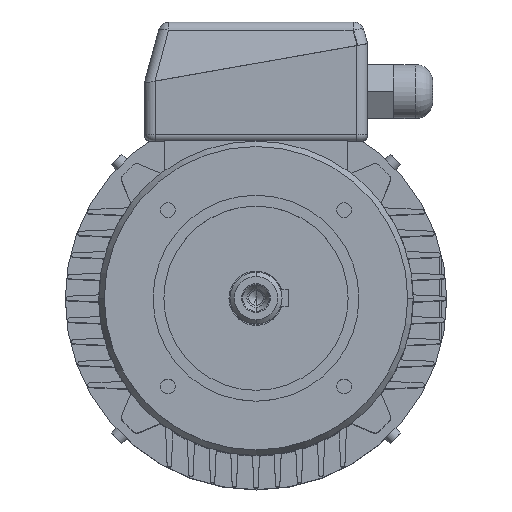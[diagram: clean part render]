
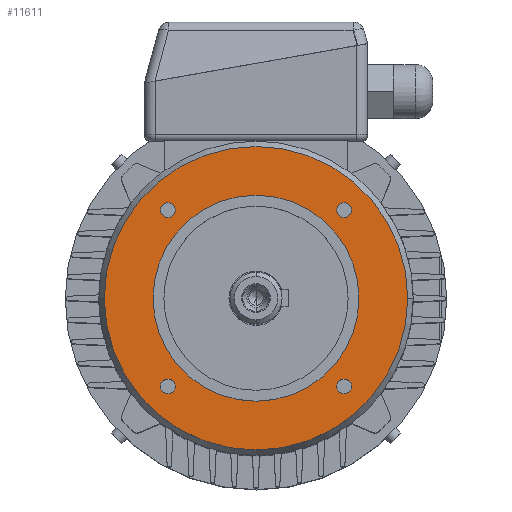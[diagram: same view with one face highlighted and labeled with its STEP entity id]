
A CAD part, top view. The second image highlights one B-rep face of the part: STEP entity #11611.
In plain terms, the highlighted planar face has unit normal (0, 0, 1).
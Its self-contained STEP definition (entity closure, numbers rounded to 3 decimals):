
#16561 = EDGE_CURVE ( 'NONE', #7037, #2355, #9770, .T. ) ;
#196 = ORIENTED_EDGE ( 'NONE', *, *, #16561, .F. ) ;
#304 = CIRCLE ( 'NONE', #305, 3.4 ) ;
#305 = AXIS2_PLACEMENT_3D ( 'NONE', #306, #307, #308 ) ;
#306 = CARTESIAN_POINT ( 'NONE',  ( 40.659, -40.659, 40. ) ) ;
#307 = DIRECTION ( 'NONE',  ( 0., 0., 1. ) ) ;
#308 = DIRECTION ( 'NONE',  ( 1., 0., 0. ) ) ;
#16860 = VERTEX_POINT ( 'NONE', #9929 ) ;
#558 = EDGE_CURVE ( 'NONE', #16860, #14140, #12507, .T. ) ;
#17073 = CIRCLE ( 'NONE', #17074, 3.4 ) ;
#17074 = AXIS2_PLACEMENT_3D ( 'NONE', #17078, #17079, #17080 ) ;
#17078 = CARTESIAN_POINT ( 'NONE',  ( -40.659, -40.659, 40. ) ) ;
#17079 = DIRECTION ( 'NONE',  ( 0., 0., 1. ) ) ;
#17080 = DIRECTION ( 'NONE',  ( 1., 0., 0. ) ) ;
#709 = ORIENTED_EDGE ( 'NONE', *, *, #558, .T. ) ;
#17231 = CARTESIAN_POINT ( 'NONE',  ( -44.059, 40.659, 40. ) ) ;
#921 = ORIENTED_EDGE ( 'NONE', *, *, #6793, .F. ) ;
#2165 = ORIENTED_EDGE ( 'NONE', *, *, #16266, .F. ) ;
#2355 = VERTEX_POINT ( 'NONE', #13650 ) ;
#2863 = CIRCLE ( 'NONE', #2864, 70. ) ;
#2864 = AXIS2_PLACEMENT_3D ( 'NONE', #2865, #2866, #2867 ) ;
#2865 = CARTESIAN_POINT ( 'NONE',  ( 0., 0., 40. ) ) ;
#2866 = DIRECTION ( 'NONE',  ( 0., 0., -1. ) ) ;
#2867 = DIRECTION ( 'NONE',  ( 0., 1., 0. ) ) ;
#2876 = CARTESIAN_POINT ( 'NONE',  ( 44.059, -40.659, 40. ) ) ;
#2985 = VERTEX_POINT ( 'NONE', #14122 ) ;
#3203 = EDGE_CURVE ( 'NONE', #3579, #2985, #14236, .T. ) ;
#3426 = ORIENTED_EDGE ( 'NONE', *, *, #3641, .F. ) ;
#3579 = VERTEX_POINT ( 'NONE', #14528 ) ;
#3641 = EDGE_CURVE ( 'NONE', #10983, #14914, #14547, .T. ) ;
#4711 = VERTEX_POINT ( 'NONE', #15298 ) ;
#4712 = EDGE_LOOP ( 'NONE', ( #921, #6431 ) ) ;
#4963 = EDGE_CURVE ( 'NONE', #4711, #12074, #15544, .T. ) ;
#5011 = FACE_BOUND ( 'NONE', #11539, .T. ) ;
#5012 = FACE_BOUND ( 'NONE', #4712, .T. ) ;
#5013 = FACE_BOUND ( 'NONE', #10735, .T. ) ;
#5014 = FACE_BOUND ( 'NONE', #11829, .T. ) ;
#5015 = FACE_BOUND ( 'NONE', #5660, .T. ) ;
#5016 = FACE_OUTER_BOUND ( 'NONE', #14731, .T. ) ;
#5017 = PLANE ( 'NONE',  #5018 ) ;
#5018 = AXIS2_PLACEMENT_3D ( 'NONE', #5019, #5020, #5021 ) ;
#5019 = CARTESIAN_POINT ( 'NONE',  ( 0., 70., 40. ) ) ;
#5020 = DIRECTION ( 'NONE',  ( 0., 0., 1. ) ) ;
#5021 = DIRECTION ( 'NONE',  ( 0., -1., 0. ) ) ;
#5660 = EDGE_LOOP ( 'NONE', ( #10973, #709 ) ) ;
#6224 = CARTESIAN_POINT ( 'NONE',  ( 0., -70., 40. ) ) ;
#6431 = ORIENTED_EDGE ( 'NONE', *, *, #3203, .F. ) ;
#6793 = EDGE_CURVE ( 'NONE', #2985, #3579, #17073, .T. ) ;
#7037 = VERTEX_POINT ( 'NONE', #17231 ) ;
#7939 = EDGE_CURVE ( 'NONE', #14914, #10983, #304, .T. ) ;
#7972 = CARTESIAN_POINT ( 'NONE',  ( 0., 47.5, 40. ) ) ;
#7975 = ORIENTED_EDGE ( 'NONE', *, *, #10976, .F. ) ;
#8079 = CIRCLE ( 'NONE', #8080, 47.5 ) ;
#8080 = AXIS2_PLACEMENT_3D ( 'NONE', #8081, #8082, #8083 ) ;
#8081 = CARTESIAN_POINT ( 'NONE',  ( 0., 0., 40. ) ) ;
#8082 = DIRECTION ( 'NONE',  ( 0., 0., -1. ) ) ;
#8083 = DIRECTION ( 'NONE',  ( 0., 1., 0. ) ) ;
#8327 = ORIENTED_EDGE ( 'NONE', *, *, #15028, .F. ) ;
#8580 = CARTESIAN_POINT ( 'NONE',  ( 37.259, -40.659, 40. ) ) ;
#8676 = CIRCLE ( 'NONE', #8677, 3.4 ) ;
#8677 = AXIS2_PLACEMENT_3D ( 'NONE', #8687, #8688, #8689 ) ;
#8687 = CARTESIAN_POINT ( 'NONE',  ( 40.659, 40.659, 40. ) ) ;
#8688 = DIRECTION ( 'NONE',  ( 0., 0., 1. ) ) ;
#8689 = DIRECTION ( 'NONE',  ( 1., 0., 0. ) ) ;
#8790 = CIRCLE ( 'NONE', #8791, 3.4 ) ;
#8791 = AXIS2_PLACEMENT_3D ( 'NONE', #8796, #8797, #8798 ) ;
#8796 = CARTESIAN_POINT ( 'NONE',  ( 40.659, 40.659, 40. ) ) ;
#8797 = DIRECTION ( 'NONE',  ( 0., 0., 1. ) ) ;
#8798 = DIRECTION ( 'NONE',  ( 1., 0., 0. ) ) ;
#8885 = CARTESIAN_POINT ( 'NONE',  ( 44.059, 40.659, 40. ) ) ;
#9132 = CARTESIAN_POINT ( 'NONE',  ( 37.259, 40.659, 40. ) ) ;
#9640 = CIRCLE ( 'NONE', #9641, 3.4 ) ;
#9641 = AXIS2_PLACEMENT_3D ( 'NONE', #9642, #9643, #9644 ) ;
#9642 = CARTESIAN_POINT ( 'NONE',  ( -40.659, 40.659, 40. ) ) ;
#9643 = DIRECTION ( 'NONE',  ( 0., 0., 1. ) ) ;
#9644 = DIRECTION ( 'NONE',  ( 1., 0., 0. ) ) ;
#9770 = CIRCLE ( 'NONE', #9771, 3.4 ) ;
#9771 = AXIS2_PLACEMENT_3D ( 'NONE', #9772, #9773, #9774 ) ;
#9772 = CARTESIAN_POINT ( 'NONE',  ( -40.659, 40.659, 40. ) ) ;
#9773 = DIRECTION ( 'NONE',  ( 0., 0., 1. ) ) ;
#9774 = DIRECTION ( 'NONE',  ( 1., 0., 0. ) ) ;
#9929 = CARTESIAN_POINT ( 'NONE',  ( 0., -47.5, 40. ) ) ;
#10735 = EDGE_LOOP ( 'NONE', ( #3426, #11847 ) ) ;
#10973 = ORIENTED_EDGE ( 'NONE', *, *, #14348, .T. ) ;
#10976 = EDGE_CURVE ( 'NONE', #12074, #4711, #2863, .T. ) ;
#10983 = VERTEX_POINT ( 'NONE', #2876 ) ;
#11539 = EDGE_LOOP ( 'NONE', ( #2165, #196 ) ) ;
#11611 = ADVANCED_FACE ( 'NONE', ( #5011, #5012, #5013, #5014, #5015, #5016 ), #5017, .T. ) ;
#11639 = ORIENTED_EDGE ( 'NONE', *, *, #15202, .F. ) ;
#11829 = EDGE_LOOP ( 'NONE', ( #11639, #8327 ) ) ;
#11847 = ORIENTED_EDGE ( 'NONE', *, *, #7939, .F. ) ;
#12074 = VERTEX_POINT ( 'NONE', #6224 ) ;
#12507 = CIRCLE ( 'NONE', #12508, 47.5 ) ;
#12508 = AXIS2_PLACEMENT_3D ( 'NONE', #12509, #12513, #12514 ) ;
#12509 = CARTESIAN_POINT ( 'NONE',  ( 0., 0., 40. ) ) ;
#12513 = DIRECTION ( 'NONE',  ( 0., 0., -1. ) ) ;
#12514 = DIRECTION ( 'NONE',  ( 0., 1., 0. ) ) ;
#13650 = CARTESIAN_POINT ( 'NONE',  ( -37.259, 40.659, 40. ) ) ;
#14122 = CARTESIAN_POINT ( 'NONE',  ( -37.259, -40.659, 40. ) ) ;
#14140 = VERTEX_POINT ( 'NONE', #7972 ) ;
#14236 = CIRCLE ( 'NONE', #14237, 3.4 ) ;
#14237 = AXIS2_PLACEMENT_3D ( 'NONE', #14238, #14239, #14242 ) ;
#14238 = CARTESIAN_POINT ( 'NONE',  ( -40.659, -40.659, 40. ) ) ;
#14239 = DIRECTION ( 'NONE',  ( 0., 0., 1. ) ) ;
#14242 = DIRECTION ( 'NONE',  ( 1., 0., 0. ) ) ;
#14348 = EDGE_CURVE ( 'NONE', #14140, #16860, #8079, .T. ) ;
#14528 = CARTESIAN_POINT ( 'NONE',  ( -44.059, -40.659, 40. ) ) ;
#14547 = CIRCLE ( 'NONE', #14548, 3.4 ) ;
#14548 = AXIS2_PLACEMENT_3D ( 'NONE', #14549, #14550, #14551 ) ;
#14549 = CARTESIAN_POINT ( 'NONE',  ( 40.659, -40.659, 40. ) ) ;
#14550 = DIRECTION ( 'NONE',  ( 0., 0., 1. ) ) ;
#14551 = DIRECTION ( 'NONE',  ( 1., 0., 0. ) ) ;
#14648 = ORIENTED_EDGE ( 'NONE', *, *, #4963, .F. ) ;
#14731 = EDGE_LOOP ( 'NONE', ( #14648, #7975 ) ) ;
#14914 = VERTEX_POINT ( 'NONE', #8580 ) ;
#15028 = EDGE_CURVE ( 'NONE', #15707, #15371, #8676, .T. ) ;
#15202 = EDGE_CURVE ( 'NONE', #15371, #15707, #8790, .T. ) ;
#15298 = CARTESIAN_POINT ( 'NONE',  ( 0., 70., 40. ) ) ;
#15371 = VERTEX_POINT ( 'NONE', #8885 ) ;
#15544 = CIRCLE ( 'NONE', #15545, 70. ) ;
#15545 = AXIS2_PLACEMENT_3D ( 'NONE', #15546, #15553, #15554 ) ;
#15546 = CARTESIAN_POINT ( 'NONE',  ( 0., 0., 40. ) ) ;
#15553 = DIRECTION ( 'NONE',  ( 0., 0., -1. ) ) ;
#15554 = DIRECTION ( 'NONE',  ( 0., 1., 0. ) ) ;
#15707 = VERTEX_POINT ( 'NONE', #9132 ) ;
#16266 = EDGE_CURVE ( 'NONE', #2355, #7037, #9640, .T. ) ;
